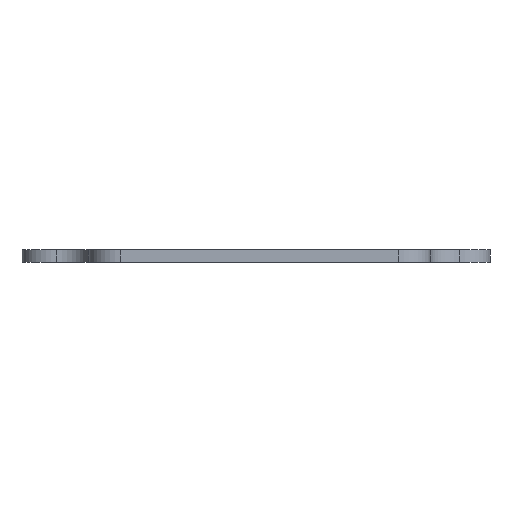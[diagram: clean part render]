
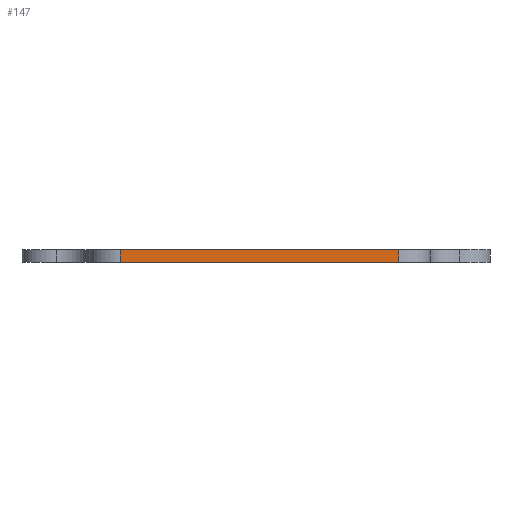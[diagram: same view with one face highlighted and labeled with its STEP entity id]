
A CAD part, left-side view. The second image highlights one B-rep face of the part: STEP entity #147.
In plain terms, the highlighted planar face has unit normal (-1, 0, 0).
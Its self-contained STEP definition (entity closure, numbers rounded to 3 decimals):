
#21 = EDGE_CURVE('',#22,#24,#26,.T.);
#22 = VERTEX_POINT('',#23);
#23 = CARTESIAN_POINT('',(1.2,126.626,21.2));
#24 = VERTEX_POINT('',#25);
#25 = CARTESIAN_POINT('',(1.2,126.626,19.8));
#26 = SURFACE_CURVE('',#27,(#31,#43),.PCURVE_S1.);
#27 = LINE('',#28,#29);
#28 = CARTESIAN_POINT('',(1.2,126.626,21.2));
#29 = VECTOR('',#30,1.);
#30 = DIRECTION('',(0.,0.,-1.));
#31 = PCURVE('',#32,#37);
#32 = CYLINDRICAL_SURFACE('',#33,3.6);
#33 = AXIS2_PLACEMENT_3D('',#34,#35,#36);
#34 = CARTESIAN_POINT('',(4.8,126.626,21.2));
#35 = DIRECTION('',(0.,-0.,1.));
#36 = DIRECTION('',(0.,-1.,-0.));
#37 = DEFINITIONAL_REPRESENTATION('',(#38),#42);
#38 = LINE('',#39,#40);
#39 = CARTESIAN_POINT('',(-1.571,0.));
#40 = VECTOR('',#41,1.);
#41 = DIRECTION('',(-0.,-1.));
#42 = ( GEOMETRIC_REPRESENTATION_CONTEXT(2) 
PARAMETRIC_REPRESENTATION_CONTEXT() REPRESENTATION_CONTEXT('2D SPACE',''
  ) );
#43 = PCURVE('',#44,#49);
#44 = PLANE('',#45);
#45 = AXIS2_PLACEMENT_3D('',#46,#47,#48);
#46 = CARTESIAN_POINT('',(1.2,126.626,21.2));
#47 = DIRECTION('',(-1.,0.,-0.));
#48 = DIRECTION('',(0.,-1.,-0.));
#49 = DEFINITIONAL_REPRESENTATION('',(#50),#54);
#50 = LINE('',#51,#52);
#51 = CARTESIAN_POINT('',(0.,0.));
#52 = VECTOR('',#53,1.);
#53 = DIRECTION('',(0.,-1.));
#54 = ( GEOMETRIC_REPRESENTATION_CONTEXT(2) 
PARAMETRIC_REPRESENTATION_CONTEXT() REPRESENTATION_CONTEXT('2D SPACE',''
  ) );
#73 = PLANE('',#74);
#74 = AXIS2_PLACEMENT_3D('',#75,#76,#77);
#75 = CARTESIAN_POINT('',(23.,111.2,19.8));
#76 = DIRECTION('',(0.,0.,1.));
#77 = DIRECTION('',(1.,0.,-0.));
#132 = PLANE('',#133);
#133 = AXIS2_PLACEMENT_3D('',#134,#135,#136);
#134 = CARTESIAN_POINT('',(23.,111.2,21.2));
#135 = DIRECTION('',(0.,0.,1.));
#136 = DIRECTION('',(1.,0.,-0.));
#147 = ADVANCED_FACE('',(#148),#44,.T.);
#148 = FACE_BOUND('',#149,.T.);
#149 = EDGE_LOOP('',(#150,#151,#174,#202));
#150 = ORIENTED_EDGE('',*,*,#21,.T.);
#151 = ORIENTED_EDGE('',*,*,#152,.T.);
#152 = EDGE_CURVE('',#24,#153,#155,.T.);
#153 = VERTEX_POINT('',#154);
#154 = CARTESIAN_POINT('',(1.2,94.974,19.8));
#155 = SURFACE_CURVE('',#156,(#160,#167),.PCURVE_S1.);
#156 = LINE('',#157,#158);
#157 = CARTESIAN_POINT('',(1.2,134.2,19.8));
#158 = VECTOR('',#159,1.);
#159 = DIRECTION('',(0.,-1.,-0.));
#160 = PCURVE('',#44,#161);
#161 = DEFINITIONAL_REPRESENTATION('',(#162),#166);
#162 = LINE('',#163,#164);
#163 = CARTESIAN_POINT('',(-7.574,-1.4));
#164 = VECTOR('',#165,1.);
#165 = DIRECTION('',(1.,0.));
#166 = ( GEOMETRIC_REPRESENTATION_CONTEXT(2) 
PARAMETRIC_REPRESENTATION_CONTEXT() REPRESENTATION_CONTEXT('2D SPACE',''
  ) );
#167 = PCURVE('',#73,#168);
#168 = DEFINITIONAL_REPRESENTATION('',(#169),#173);
#169 = LINE('',#170,#171);
#170 = CARTESIAN_POINT('',(-21.8,23.));
#171 = VECTOR('',#172,1.);
#172 = DIRECTION('',(0.,-1.));
#173 = ( GEOMETRIC_REPRESENTATION_CONTEXT(2) 
PARAMETRIC_REPRESENTATION_CONTEXT() REPRESENTATION_CONTEXT('2D SPACE',''
  ) );
#174 = ORIENTED_EDGE('',*,*,#175,.F.);
#175 = EDGE_CURVE('',#176,#153,#178,.T.);
#176 = VERTEX_POINT('',#177);
#177 = CARTESIAN_POINT('',(1.2,94.974,21.2));
#178 = SURFACE_CURVE('',#179,(#183,#190),.PCURVE_S1.);
#179 = LINE('',#180,#181);
#180 = CARTESIAN_POINT('',(1.2,94.974,21.2));
#181 = VECTOR('',#182,1.);
#182 = DIRECTION('',(0.,0.,-1.));
#183 = PCURVE('',#44,#184);
#184 = DEFINITIONAL_REPRESENTATION('',(#185),#189);
#185 = LINE('',#186,#187);
#186 = CARTESIAN_POINT('',(31.652,0.));
#187 = VECTOR('',#188,1.);
#188 = DIRECTION('',(0.,-1.));
#189 = ( GEOMETRIC_REPRESENTATION_CONTEXT(2) 
PARAMETRIC_REPRESENTATION_CONTEXT() REPRESENTATION_CONTEXT('2D SPACE',''
  ) );
#190 = PCURVE('',#191,#196);
#191 = CYLINDRICAL_SURFACE('',#192,3.6);
#192 = AXIS2_PLACEMENT_3D('',#193,#194,#195);
#193 = CARTESIAN_POINT('',(4.8,94.974,21.2));
#194 = DIRECTION('',(-0.,-0.,1.));
#195 = DIRECTION('',(0.996,0.086,0.));
#196 = DEFINITIONAL_REPRESENTATION('',(#197),#201);
#197 = LINE('',#198,#199);
#198 = CARTESIAN_POINT('',(-3.227,0.));
#199 = VECTOR('',#200,1.);
#200 = DIRECTION('',(-0.,-1.));
#201 = ( GEOMETRIC_REPRESENTATION_CONTEXT(2) 
PARAMETRIC_REPRESENTATION_CONTEXT() REPRESENTATION_CONTEXT('2D SPACE',''
  ) );
#202 = ORIENTED_EDGE('',*,*,#203,.F.);
#203 = EDGE_CURVE('',#22,#176,#204,.T.);
#204 = SURFACE_CURVE('',#205,(#209,#216),.PCURVE_S1.);
#205 = LINE('',#206,#207);
#206 = CARTESIAN_POINT('',(1.2,134.2,21.2));
#207 = VECTOR('',#208,1.);
#208 = DIRECTION('',(0.,-1.,-0.));
#209 = PCURVE('',#44,#210);
#210 = DEFINITIONAL_REPRESENTATION('',(#211),#215);
#211 = LINE('',#212,#213);
#212 = CARTESIAN_POINT('',(-7.574,0.));
#213 = VECTOR('',#214,1.);
#214 = DIRECTION('',(1.,0.));
#215 = ( GEOMETRIC_REPRESENTATION_CONTEXT(2) 
PARAMETRIC_REPRESENTATION_CONTEXT() REPRESENTATION_CONTEXT('2D SPACE',''
  ) );
#216 = PCURVE('',#132,#217);
#217 = DEFINITIONAL_REPRESENTATION('',(#218),#222);
#218 = LINE('',#219,#220);
#219 = CARTESIAN_POINT('',(-21.8,23.));
#220 = VECTOR('',#221,1.);
#221 = DIRECTION('',(0.,-1.));
#222 = ( GEOMETRIC_REPRESENTATION_CONTEXT(2) 
PARAMETRIC_REPRESENTATION_CONTEXT() REPRESENTATION_CONTEXT('2D SPACE',''
  ) );
